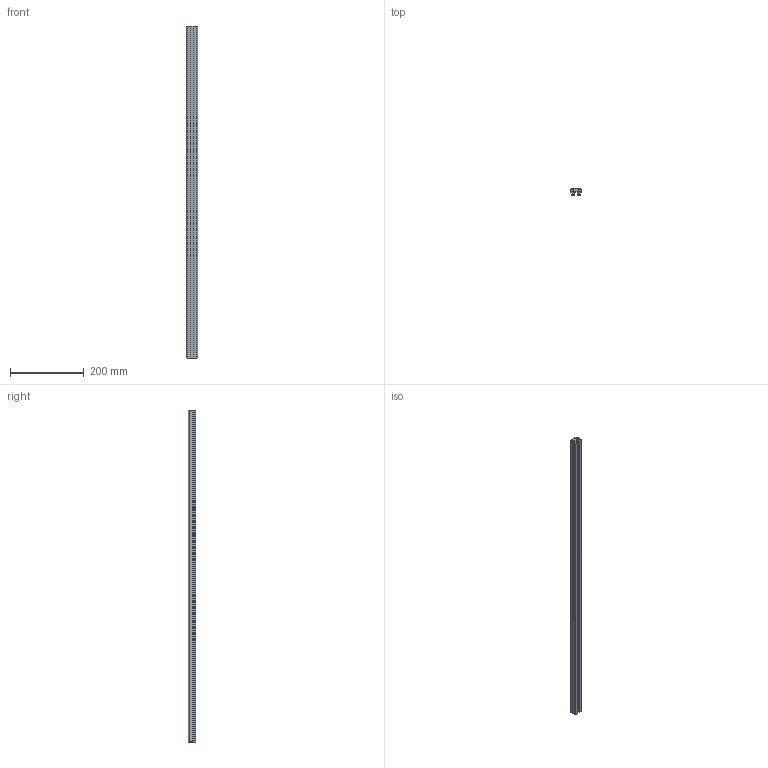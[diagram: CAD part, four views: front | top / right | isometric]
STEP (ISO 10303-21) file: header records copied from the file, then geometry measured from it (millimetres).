
FILE_DESCRIPTION (( 'STEP AP203' ), '1' );
FILE_NAME ('MLF 1_-_MLF 1 898 mm lang.step', '2005-06-03T08:17:21', ( ' ' ), ( ' ' ), 'SwSTEP 2.0', 'SolidWorks 2004231', '' );
FILE_SCHEMA (( 'CONFIG_CONTROL_DESIGN' ));
Length unit declared in the file: millimetre
Products named in the file (1): MLF 1_-_MLF 1  898 mm lang
Bounding box: 30 x 20 x 898 mm (x, y, z)
Volume: 363125.3 mm3; surface area: 158311.7 mm2
Topology: 1 solids, 1 shells, 72 faces, 222 edges, 144 vertices
Faces by surface type: plane 52, cylinder 20
Entity records: 2543 total; most frequent: ORIENTED_EDGE 444, CARTESIAN_POINT 439, DIRECTION 408, EDGE_CURVE 222, VECTOR 182, LINE 182, VERTEX_POINT 144, AXIS2_PLACEMENT_3D 113
